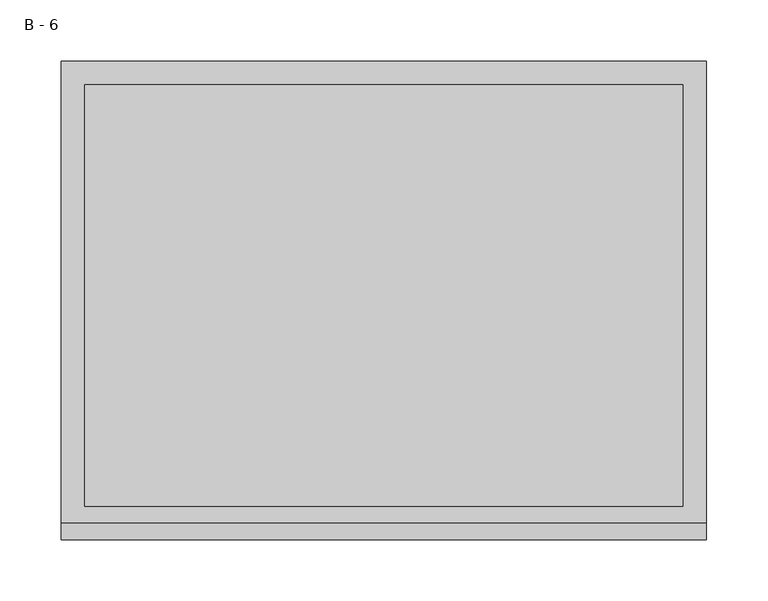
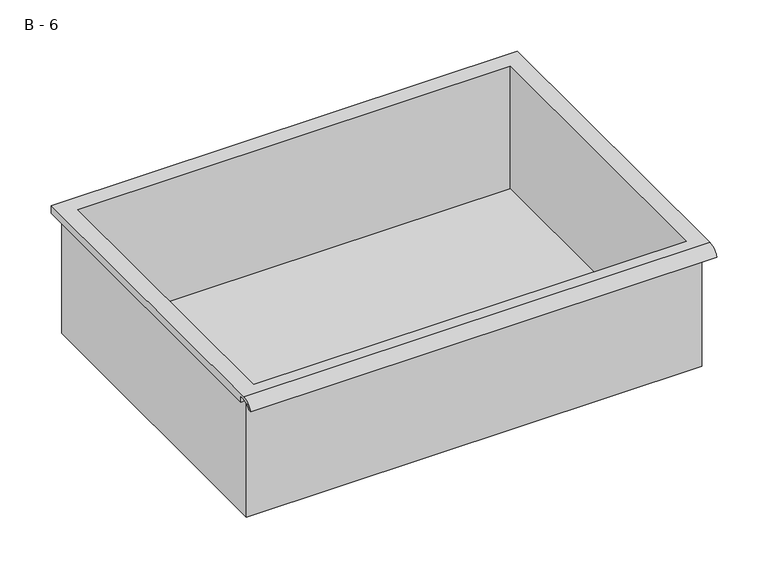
"""IFC4 building model written with IfcOpenShell, lengths in millimetres: furniture geometry, HermanMiller_CoStruc_CO207_Drawer : B - 6."""

from ifc_helpers import new_model, si_unit, frame, origin, place, context, project, spatial, polyline, circle_curve, source, transform, mapped, element, save
from ifc_brep_helpers import plane_surface, cylinder_surface, revolved_surface, advanced_brep


def b_6_dce5e656(model_context):
    return source(origin(), model_context, "Body", "AdvancedBrep", [
        advanced_brep(
        [(-257.1076517, -176.2125, 494.50752), (257.2423483, -176.2125, 494.50752), (257.2423483, -176.2125, 634.20752), (263.5923483, -176.2125, 634.20752), (263.5923483, -176.2125, 640.5146541), (-263.4576517, -176.2125, 640.5146541), (-263.4576517, -176.2125, 634.20752), (-257.1076517, -176.2125, 634.20752), (257.2423483, 185.7375, 494.50752), (-257.1076517, 185.7375, 494.50752), (-257.1076517, 185.7375, 634.20752), (257.2423483, 185.7375, 634.20752), (263.5923483, -181.6070544, 643.73252), (263.5923483, 195.2625, 643.73252), (-263.4576517, 195.2625, 643.73252), (-263.4576517, -181.6070544, 643.73252), (244.5423483, -168.275, 643.73252), (-244.4076517, -168.275, 643.73252), (-244.4076517, 176.2125, 643.73252), (244.5423483, 176.2125, 643.73252), (263.5923483, -195.2625, 634.20752), (263.5923483, -191.8280601, 634.20752), (263.5923483, -180.4714815, 640.5146541), (263.5923483, 195.2625, 634.20752), (-263.4576517, 195.2625, 634.20752), (-263.4576517, -180.4714815, 640.5146541), (-263.4576517, -191.8280601, 634.20752), (-263.4576517, -195.2625, 634.20752), (-244.4076517, -168.275, 497.5336919), (244.5423483, -168.275, 497.5336919), (244.5423483, 176.2125, 497.5336919), (-244.4076517, 176.2125, 497.5336919)],
        [
            (0, 1),
            (1, 2),
            (2, 3),
            (3, 4),
            (4, 5),
            (5, 6),
            (6, 7),
            (7, 0),
            (8, 9),
            (9, 10),
            (10, 11),
            (11, 8),
            (0, 9),
            (8, 1),
            (11, 2),
            (12, 13),
            (13, 14),
            (14, 15),
            (15, 12),
            (16, 17),
            (17, 18),
            (18, 19),
            (19, 16),
            (7, 10),
            (12, 20, circle_curve(frame((263.5923483, -181.6070544, 629.1815059), z_axis=(1.0, 0.0, 0.0), x_axis=(0.0, 1.0, 0.0)), 14.5510141)),
            (20, 21),
            (21, 22, circle_curve(frame((263.5923483, -181.6070544, 629.1815059), z_axis=(-1.0, 0.0, 0.0), x_axis=(0.0, 1.0, 0.0)), 11.3898979)),
            (22, 4),
            (3, 23),
            (23, 13),
            (14, 24),
            (24, 6),
            (5, 25),
            (25, 26, circle_curve(frame((-263.4576517, -181.6070544, 629.1815059), z_axis=(1.0, 0.0, 0.0), x_axis=(0.0, 1.0, 0.0)), 11.3898979)),
            (26, 27),
            (27, 15, circle_curve(frame((-263.4576517, -181.6070544, 629.1815059), z_axis=(-1.0, 0.0, 0.0), x_axis=(0.0, 1.0, 0.0)), 14.5510141)),
            (27, 20),
            (26, 21),
            (25, 22),
            (24, 23),
            (28, 29),
            (29, 30),
            (30, 31),
            (31, 28),
            (28, 17),
            (16, 29),
            (19, 30),
            (18, 31),
        ],
        [
            plane_surface(frame((257.2423483, -176.2125, 494.50752), z_axis=(0.0, -1.0, 0.0), x_axis=(1.0, 0.0, 0.0))),
            plane_surface(frame((257.2423483, 185.7375, 494.50752), z_axis=(0.0, 1.0, 0.0), x_axis=(-1.0, 0.0, 0.0))),
            plane_surface(frame((-257.1076517, -176.2125, 494.50752), z_axis=(0.0, 0.0, -1.0), x_axis=(0.0, 1.0, 0.0))),
            plane_surface(frame((257.2423483, -176.2125, 494.50752), z_axis=(1.0, 0.0, 0.0), x_axis=(0.0, 1.0, 0.0))),
            plane_surface(frame((257.2423483, -176.2125, 643.73252), z_axis=(0.0, 0.0, 1.0), x_axis=(0.0, 1.0, 0.0))),
            plane_surface(frame((-257.1076517, -176.2125, 643.73252), z_axis=(-1.0, 0.0, 0.0), x_axis=(0.0, 1.0, 0.0))),
            plane_surface(frame((263.5923483, 195.2625, 643.73252), z_axis=(1.0, 0.0, 0.0), x_axis=(0.0, -1.0, 0.0))),
            plane_surface(frame((-263.4576517, 195.2625, 643.73252), z_axis=(-1.0, 0.0, 0.0), x_axis=(0.0, 1.0, 0.0))),
            cylinder_surface(frame((-263.4576517, -181.6070544, 629.1815059), z_axis=(1.0, 0.0, 0.0), x_axis=(0.0, 1.0, 0.0)), 14.5510141),
            plane_surface(frame((263.5923483, -195.2625, 634.20752), z_axis=(0.0, -7.330645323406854e-12, -1.0), x_axis=(-1.0, 0.0, 0.0))),
            revolved_surface(polyline([(-263.4576517, -170.21715650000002, 629.1815059), (263.59234829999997, -170.21715650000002, 629.1815059)]), (-263.4576517, -181.6070544, 629.1815059), (-1.0, 0.0, 0.0)),
            plane_surface(frame((263.5923483, -180.4714815, 640.5146541), z_axis=(0.0, -1.81156652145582e-11, -1.0), x_axis=(-1.0, 0.0, 0.0))),
            plane_surface(frame((263.5923483, -176.2125, 634.20752), z_axis=(0.0, 0.0, -1.0), x_axis=(-1.0, 0.0, 0.0))),
            plane_surface(frame((263.5923483, 195.2625, 634.20752), z_axis=(0.0, 1.0, 0.0), x_axis=(-1.0, 0.0, 0.0))),
            plane_surface(frame((244.5423483, -168.275, 497.5336919), z_axis=(0.0, 0.0, 1.0), x_axis=(-1.0, 0.0, 0.0))),
            plane_surface(frame((-244.4076517, -168.275, 643.73252), z_axis=(0.0, 1.0, 0.0), x_axis=(0.0, 0.0, -1.0))),
            plane_surface(frame((244.5423483, -168.275, 643.73252), z_axis=(-1.0, 0.0, 0.0), x_axis=(0.0, 0.0, -1.0))),
            plane_surface(frame((244.5423483, 176.2125, 643.73252), z_axis=(0.0, -1.0, 0.0), x_axis=(0.0, 0.0, -1.0))),
            plane_surface(frame((-244.4076517, 176.2125, 643.73252), z_axis=(1.0, 0.0, 0.0), x_axis=(0.0, 0.0, -1.0))),
        ],
        [
            (0, [[1, 2, 3, 4, 5, 6, 7, 8]]),
            (1, [[9, 10, 11, 12]]),
            (2, [[-1, 13, -9, 14]]),
            (3, [[-14, -12, 15, -2]]),
            (4, [[16, 17, 18, 19], [20, 21, 22, 23]]),
            (5, [[-13, -8, 24, -10]]),
            (6, [[-16, 25, 26, 27, 28, -4, 29, 30]]),
            (7, [[31, 32, -6, 33, 34, 35, 36, -18]]),
            (8, [[-25, -19, -36, 37]]),
            (9, [[-26, -37, -35, 38]]),
            (10, [[-27, -38, -34, 39]]),
            (11, [[-28, -39, -33, -5]]),
            (12, [[-29, -3, -15, -11, -24, -7, -32, 40]]),
            (13, [[-30, -40, -31, -17]]),
            (14, [[41, 42, 43, 44]]),
            (15, [[-41, 45, -20, 46]]),
            (16, [[-42, -46, -23, 47]]),
            (17, [[-43, -47, -22, 48]]),
            (18, [[-44, -48, -21, -45]]),
        ],
    ),
    ])


if __name__ == "__main__":
    model = new_model("IFC4")
    model_context = context("Model", 3, world=origin())
    ifc_project = project(units=[si_unit("LENGTHUNIT", "METRE", prefix="MILLI")], contexts=[model_context])
    site = spatial("IfcSite", under=ifc_project)
    building = spatial("IfcBuilding", under=site)
    placement = place(None, origin())
    b_6_shape = b_6_dce5e656(model_context)
    element("IfcFurniture", 1, ObjectType="HermanMiller_CoStruc_CO207_Drawer : B - 6", at=placement, inside=building, context=model_context, shape_type="MappedRepresentation", body=[
        mapped(b_6_shape, transform((0.0, 0.0, 0.0), x_axis=(1.0, 0.0, 0.0), y_axis=(0.0, 1.0, 0.0), z_axis=(0.0, 0.0, 1.0))),
    ])
    save(model, "model.ifc")
